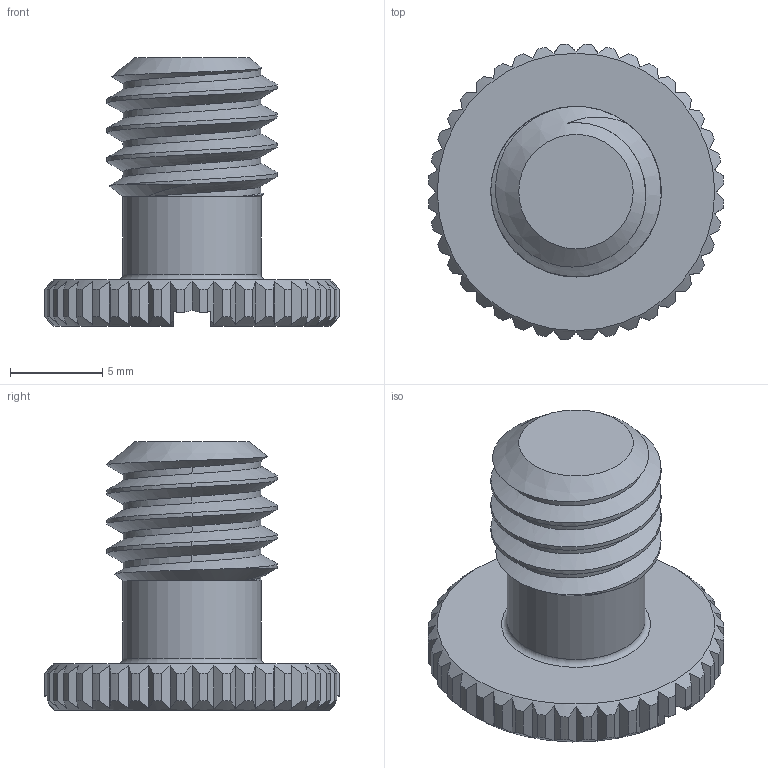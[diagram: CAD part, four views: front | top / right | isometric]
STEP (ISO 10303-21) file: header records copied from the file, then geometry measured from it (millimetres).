
FILE_DESCRIPTION(/* description */ (''),/* implementation_level */ '2;1');
FILE_NAME(/* name */ 'Stativschraube 3_8 3D printing.step',/* time_stamp */ '2023-11-01T15:56:28+01:00',/* author */ (''),/* organization */ (''),/* preprocessor_version */ 'ST-DEVELOPER v20',/* originating_system */ 'Autodesk Translation Framework v12.14.0.127',/* authorisation */ '');
FILE_SCHEMA (('AUTOMOTIVE_DESIGN { 1 0 10303 214 3 1 1 }'));
Length unit declared in the file: millimetre
Products named in the file (1): Stativschraube 3_8"
Bounding box: 15.98 x 15.98 x 14.5 mm (x, y, z)
Volume: 1017.8 mm3; surface area: 966.6 mm2
Topology: 1 solids, 1 shells, 146 faces, 428 edges, 285 vertices
Faces by surface type: plane 86, cylinder 51, cone 6, bspline 2, torus 1
Full cylindrical faces by diameter (mm): 7.46 x3, 7.463 x1, 9.212 x2
Entity records: 5931 total; most frequent: CARTESIAN_POINT 2456, ORIENTED_EDGE 856, DIRECTION 631, EDGE_CURVE 428, VERTEX_POINT 285, AXIS2_PLACEMENT_3D 247, EDGE_LOOP 147, FACE_OUTER_BOUND 146
